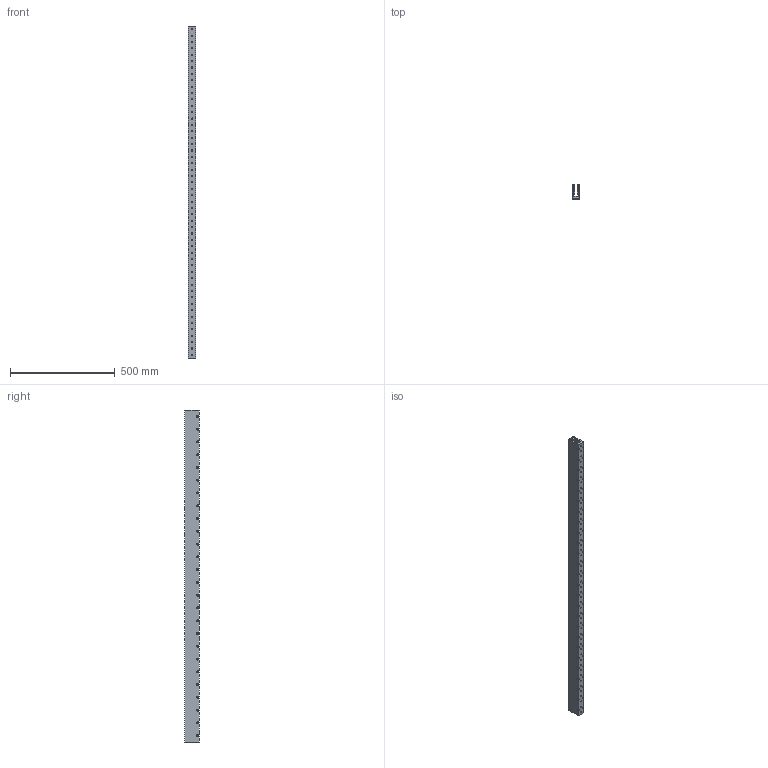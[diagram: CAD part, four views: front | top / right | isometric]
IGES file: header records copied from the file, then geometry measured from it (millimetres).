
Global section: file name: No Iges File Name specified; native system: Autodesk Inventor 2012; preprocessor: AutoDesk Inventor Iges Exporter R2012; author: je17857; date: 20120511.155427; units: inch
Bounding box: 34.29 x 67.31 x 1584.71 mm (x, y, z)
Volume: 2336018.6 mm3; surface area: 609227.1 mm2
Topology: 1 solids, 1 shells, 764 faces, 1766 edges, 1186 vertices
Faces by surface type: plane 608, revolution 156
